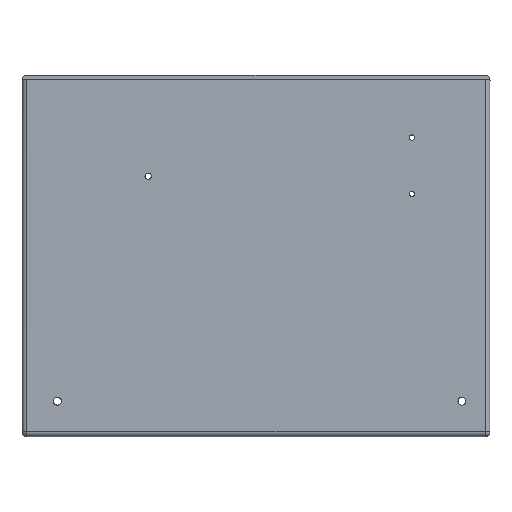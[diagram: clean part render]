
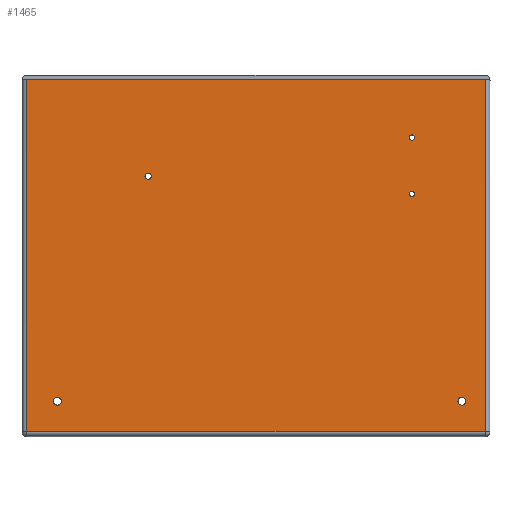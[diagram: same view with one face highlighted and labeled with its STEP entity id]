
A CAD part, top view. The second image highlights one B-rep face of the part: STEP entity #1465.
In plain terms, the highlighted planar face has unit normal (0, 0, 1).
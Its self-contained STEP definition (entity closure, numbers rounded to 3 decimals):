
#3 = PLANE ( 'NONE',  #1595 ) ;
#17 = CARTESIAN_POINT ( 'NONE',  ( -71.172, 16.934, 150. ) ) ;
#23 = CARTESIAN_POINT ( 'NONE',  ( 147., 147., 150. ) ) ;
#39 = FACE_BOUND ( 'NONE', #850, .T. ) ;
#50 = AXIS2_PLACEMENT_3D ( 'NONE', #409, #1028, #1835 ) ;
#90 = ORIENTED_EDGE ( 'NONE', *, *, #1474, .F. ) ;
#106 = CARTESIAN_POINT ( 'NONE',  ( -67.172, 16.934, 150. ) ) ;
#121 = CARTESIAN_POINT ( 'NONE',  ( 147., -147., 150. ) ) ;
#138 = AXIS2_PLACEMENT_3D ( 'NONE', #1652, #1017, #620 ) ;
#151 = LINE ( 'NONE', #121, #2564 ) ;
#160 = VERTEX_POINT ( 'NONE', #756 ) ;
#181 = CARTESIAN_POINT ( 'NONE',  ( 100., 5.682, 150. ) ) ;
#203 = EDGE_CURVE ( 'NONE', #1712, #1440, #151, .T. ) ;
#229 = CARTESIAN_POINT ( 'NONE',  ( 98.3, 41.711, 150. ) ) ;
#263 = VERTEX_POINT ( 'NONE', #1437 ) ;
#339 = CIRCLE ( 'NONE', #2209, 1.7 ) ;
#352 = AXIS2_PLACEMENT_3D ( 'NONE', #2027, #1852, #425 ) ;
#371 = CARTESIAN_POINT ( 'NONE',  ( -147., 78.691, 150. ) ) ;
#384 = CARTESIAN_POINT ( 'NONE',  ( 147., 78.691, 150. ) ) ;
#409 = CARTESIAN_POINT ( 'NONE',  ( -69.172, 16.934, 150. ) ) ;
#412 = ORIENTED_EDGE ( 'NONE', *, *, #1270, .F. ) ;
#422 = AXIS2_PLACEMENT_3D ( 'NONE', #181, #757, #1576 ) ;
#425 = DIRECTION ( 'NONE',  ( 1., 0., 0. ) ) ;
#454 = EDGE_LOOP ( 'NONE', ( #951, #1413 ) ) ;
#480 = VERTEX_POINT ( 'NONE', #229 ) ;
#549 = ORIENTED_EDGE ( 'NONE', *, *, #1381, .F. ) ;
#565 = EDGE_CURVE ( 'NONE', #1647, #917, #969, .T. ) ;
#569 = VERTEX_POINT ( 'NONE', #106 ) ;
#585 = VERTEX_POINT ( 'NONE', #1961 ) ;
#617 = FACE_BOUND ( 'NONE', #454, .T. ) ;
#620 = DIRECTION ( 'NONE',  ( 1., 0., 0. ) ) ;
#645 = EDGE_LOOP ( 'NONE', ( #1359, #2306 ) ) ;
#726 = AXIS2_PLACEMENT_3D ( 'NONE', #1366, #997, #2418 ) ;
#735 = CIRCLE ( 'NONE', #1720, 2.5 ) ;
#756 = CARTESIAN_POINT ( 'NONE',  ( 101.7, 5.682, 150. ) ) ;
#757 = DIRECTION ( 'NONE',  ( 0., 0., 1. ) ) ;
#763 = DIRECTION ( 'NONE',  ( 1., 0., 0. ) ) ;
#808 = CARTESIAN_POINT ( 'NONE',  ( 147., -147., 150. ) ) ;
#810 = EDGE_CURVE ( 'NONE', #1122, #1277, #735, .T. ) ;
#843 = EDGE_CURVE ( 'NONE', #1647, #1712, #1682, .T. ) ;
#850 = EDGE_LOOP ( 'NONE', ( #1263, #1278 ) ) ;
#880 = ORIENTED_EDGE ( 'NONE', *, *, #565, .F. ) ;
#917 = VERTEX_POINT ( 'NONE', #384 ) ;
#923 = EDGE_CURVE ( 'NONE', #585, #1470, #1162, .T. ) ;
#946 = ORIENTED_EDGE ( 'NONE', *, *, #843, .T. ) ;
#951 = ORIENTED_EDGE ( 'NONE', *, *, #2437, .F. ) ;
#969 = LINE ( 'NONE', #2591, #2089 ) ;
#997 = DIRECTION ( 'NONE',  ( 0., 0., 1. ) ) ;
#1013 = DIRECTION ( 'NONE',  ( 0., 0., 1. ) ) ;
#1014 = EDGE_CURVE ( 'NONE', #1440, #917, #2428, .T. ) ;
#1017 = DIRECTION ( 'NONE',  ( 0., 0., 1. ) ) ;
#1028 = DIRECTION ( 'NONE',  ( 0., 0., 1. ) ) ;
#1034 = FACE_BOUND ( 'NONE', #1480, .T. ) ;
#1047 = FACE_BOUND ( 'NONE', #645, .T. ) ;
#1066 = EDGE_LOOP ( 'NONE', ( #412, #2538 ) ) ;
#1079 = DIRECTION ( 'NONE',  ( 1., 0., 0. ) ) ;
#1122 = VERTEX_POINT ( 'NONE', #1903 ) ;
#1159 = CARTESIAN_POINT ( 'NONE',  ( 132., -127.323, 150. ) ) ;
#1162 = CIRCLE ( 'NONE', #352, 2.5 ) ;
#1167 = CIRCLE ( 'NONE', #1926, 1.7 ) ;
#1200 = EDGE_CURVE ( 'NONE', #1277, #1122, #1721, .T. ) ;
#1245 = VECTOR ( 'NONE', #1634, 1000. ) ;
#1263 = ORIENTED_EDGE ( 'NONE', *, *, #923, .F. ) ;
#1270 = EDGE_CURVE ( 'NONE', #1463, #569, #2528, .T. ) ;
#1277 = VERTEX_POINT ( 'NONE', #2008 ) ;
#1278 = ORIENTED_EDGE ( 'NONE', *, *, #2548, .F. ) ;
#1310 = CARTESIAN_POINT ( 'NONE',  ( -69.172, 16.934, 150. ) ) ;
#1340 = VERTEX_POINT ( 'NONE', #2046 ) ;
#1359 = ORIENTED_EDGE ( 'NONE', *, *, #810, .F. ) ;
#1366 = CARTESIAN_POINT ( 'NONE',  ( -127.323, -127.323, 150. ) ) ;
#1381 = EDGE_CURVE ( 'NONE', #263, #480, #2055, .T. ) ;
#1399 = CARTESIAN_POINT ( 'NONE',  ( 100., 5.682, 150. ) ) ;
#1413 = ORIENTED_EDGE ( 'NONE', *, *, #2381, .F. ) ;
#1424 = DIRECTION ( 'NONE',  ( 0., 0., 1. ) ) ;
#1437 = CARTESIAN_POINT ( 'NONE',  ( 101.7, 41.711, 150. ) ) ;
#1438 = CARTESIAN_POINT ( 'NONE',  ( 0., 0., 150. ) ) ;
#1440 = VERTEX_POINT ( 'NONE', #808 ) ;
#1463 = VERTEX_POINT ( 'NONE', #17 ) ;
#1465 = ADVANCED_FACE ( 'NONE', ( #1034, #617, #1867, #2256, #1047, #39 ), #3, .T. ) ;
#1470 = VERTEX_POINT ( 'NONE', #2632 ) ;
#1474 = EDGE_CURVE ( 'NONE', #480, #263, #1167, .T. ) ;
#1480 = EDGE_LOOP ( 'NONE', ( #90, #549 ) ) ;
#1488 = DIRECTION ( 'NONE',  ( 0., 0., 1. ) ) ;
#1549 = AXIS2_PLACEMENT_3D ( 'NONE', #1159, #1775, #2587 ) ;
#1576 = DIRECTION ( 'NONE',  ( 1., 0., 0. ) ) ;
#1595 = AXIS2_PLACEMENT_3D ( 'NONE', #1438, #1013, #1818 ) ;
#1599 = AXIS2_PLACEMENT_3D ( 'NONE', #1310, #1922, #2093 ) ;
#1602 = CIRCLE ( 'NONE', #1599, 2. ) ;
#1634 = DIRECTION ( 'NONE',  ( 0., 1., 0. ) ) ;
#1637 = EDGE_CURVE ( 'NONE', #569, #1463, #1602, .T. ) ;
#1647 = VERTEX_POINT ( 'NONE', #371 ) ;
#1652 = CARTESIAN_POINT ( 'NONE',  ( 100., 41.711, 150. ) ) ;
#1660 = DIRECTION ( 'NONE',  ( 1., 0., 0. ) ) ;
#1682 = LINE ( 'NONE', #1887, #2050 ) ;
#1712 = VERTEX_POINT ( 'NONE', #2155 ) ;
#1720 = AXIS2_PLACEMENT_3D ( 'NONE', #2128, #1488, #1079 ) ;
#1721 = CIRCLE ( 'NONE', #1549, 2.5 ) ;
#1775 = DIRECTION ( 'NONE',  ( 0., 0., 1. ) ) ;
#1818 = DIRECTION ( 'NONE',  ( 1., 0., 0. ) ) ;
#1835 = DIRECTION ( 'NONE',  ( 1., 0., 0. ) ) ;
#1852 = DIRECTION ( 'NONE',  ( 0., 0., 1. ) ) ;
#1867 = FACE_OUTER_BOUND ( 'NONE', #2508, .T. ) ;
#1887 = CARTESIAN_POINT ( 'NONE',  ( -147., 0., 150. ) ) ;
#1903 = CARTESIAN_POINT ( 'NONE',  ( 129.5, -127.323, 150. ) ) ;
#1922 = DIRECTION ( 'NONE',  ( 0., 0., 1. ) ) ;
#1926 = AXIS2_PLACEMENT_3D ( 'NONE', #2245, #1424, #1660 ) ;
#1961 = CARTESIAN_POINT ( 'NONE',  ( -129.823, -127.323, 150. ) ) ;
#2008 = CARTESIAN_POINT ( 'NONE',  ( 134.5, -127.323, 150. ) ) ;
#2027 = CARTESIAN_POINT ( 'NONE',  ( -127.323, -127.323, 150. ) ) ;
#2046 = CARTESIAN_POINT ( 'NONE',  ( 98.3, 5.682, 150. ) ) ;
#2050 = VECTOR ( 'NONE', #2283, 1000. ) ;
#2055 = CIRCLE ( 'NONE', #138, 1.7 ) ;
#2089 = VECTOR ( 'NONE', #763, 1000. ) ;
#2093 = DIRECTION ( 'NONE',  ( 1., 0., 0. ) ) ;
#2128 = CARTESIAN_POINT ( 'NONE',  ( 132., -127.323, 150. ) ) ;
#2155 = CARTESIAN_POINT ( 'NONE',  ( -147., -147., 150. ) ) ;
#2159 = DIRECTION ( 'NONE',  ( 1., 0., 0. ) ) ;
#2168 = DIRECTION ( 'NONE',  ( 0., 0., 1. ) ) ;
#2209 = AXIS2_PLACEMENT_3D ( 'NONE', #1399, #2168, #2159 ) ;
#2245 = CARTESIAN_POINT ( 'NONE',  ( 100., 41.711, 150. ) ) ;
#2256 = FACE_BOUND ( 'NONE', #1066, .T. ) ;
#2283 = DIRECTION ( 'NONE',  ( 0., -1., 0. ) ) ;
#2306 = ORIENTED_EDGE ( 'NONE', *, *, #1200, .F. ) ;
#2340 = CIRCLE ( 'NONE', #422, 1.7 ) ;
#2381 = EDGE_CURVE ( 'NONE', #160, #1340, #339, .T. ) ;
#2387 = ORIENTED_EDGE ( 'NONE', *, *, #203, .T. ) ;
#2418 = DIRECTION ( 'NONE',  ( 1., 0., 0. ) ) ;
#2428 = LINE ( 'NONE', #23, #1245 ) ;
#2437 = EDGE_CURVE ( 'NONE', #1340, #160, #2340, .T. ) ;
#2465 = ORIENTED_EDGE ( 'NONE', *, *, #1014, .T. ) ;
#2508 = EDGE_LOOP ( 'NONE', ( #880, #946, #2387, #2465 ) ) ;
#2512 = CIRCLE ( 'NONE', #726, 2.5 ) ;
#2528 = CIRCLE ( 'NONE', #50, 2. ) ;
#2538 = ORIENTED_EDGE ( 'NONE', *, *, #1637, .F. ) ;
#2548 = EDGE_CURVE ( 'NONE', #1470, #585, #2512, .T. ) ;
#2564 = VECTOR ( 'NONE', #2595, 1000. ) ;
#2587 = DIRECTION ( 'NONE',  ( 1., 0., 0. ) ) ;
#2591 = CARTESIAN_POINT ( 'NONE',  ( 0., 78.691, 150. ) ) ;
#2595 = DIRECTION ( 'NONE',  ( 1., 0., 0. ) ) ;
#2632 = CARTESIAN_POINT ( 'NONE',  ( -124.823, -127.323, 150. ) ) ;
